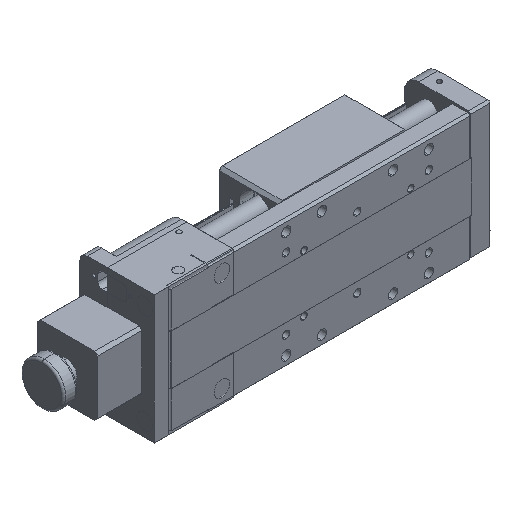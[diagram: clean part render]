
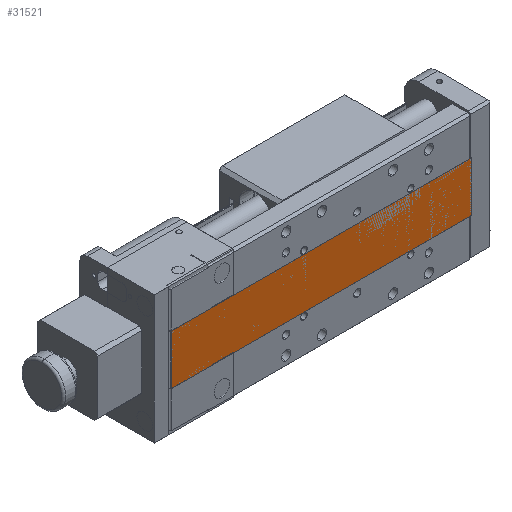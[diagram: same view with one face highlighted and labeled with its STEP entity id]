
A CAD part, isometric view. The second image highlights one B-rep face of the part: STEP entity #31521.
In plain terms, the highlighted planar face has unit normal (0, -1, 0).
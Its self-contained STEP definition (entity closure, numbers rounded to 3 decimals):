
#229 = ORIENTED_EDGE ( 'NONE', *, *, #33339, .T. ) ;
#234 = CARTESIAN_POINT ( 'NONE',  ( 207., -1., -62.5 ) ) ;
#1481 = VERTEX_POINT ( 'NONE', #14534 ) ;
#2547 = CARTESIAN_POINT ( 'NONE',  ( 207., -1., -62.5 ) ) ;
#5089 = LINE ( 'NONE', #15609, #22450 ) ;
#9201 = ORIENTED_EDGE ( 'NONE', *, *, #34910, .T. ) ;
#10143 = VERTEX_POINT ( 'NONE', #26408 ) ;
#14534 = CARTESIAN_POINT ( 'NONE',  ( 207., -1., -27.5 ) ) ;
#14621 = CARTESIAN_POINT ( 'NONE',  ( -3.5, -1., -62.5 ) ) ;
#14853 = VECTOR ( 'NONE', #28776, 1000. ) ;
#15194 = AXIS2_PLACEMENT_3D ( 'NONE', #70119, #53005, #18173 ) ;
#15609 = CARTESIAN_POINT ( 'NONE',  ( 207., -1., -27.5 ) ) ;
#16930 = EDGE_CURVE ( 'NONE', #46244, #63447, #71030, .T. ) ;
#17727 = ORIENTED_EDGE ( 'NONE', *, *, #30220, .T. ) ;
#18173 = DIRECTION ( 'NONE',  ( -1., 0., 0. ) ) ;
#22450 = VECTOR ( 'NONE', #56316, 1000. ) ;
#22651 = CARTESIAN_POINT ( 'NONE',  ( 207., -1., -62.5 ) ) ;
#26408 = CARTESIAN_POINT ( 'NONE',  ( -3.5, -1., -27.5 ) ) ;
#28776 = DIRECTION ( 'NONE',  ( 0., 0., 1. ) ) ;
#29075 = ORIENTED_EDGE ( 'NONE', *, *, #16930, .T. ) ;
#30220 = EDGE_CURVE ( 'NONE', #1481, #10143, #5089, .T. ) ;
#31521 = ADVANCED_FACE ( 'NONE', ( #33564 ), #35477, .T. ) ;
#33339 = EDGE_CURVE ( 'NONE', #10143, #46244, #34213, .T. ) ;
#33564 = FACE_OUTER_BOUND ( 'NONE', #57682, .T. ) ;
#34213 = LINE ( 'NONE', #14621, #47796 ) ;
#34910 = EDGE_CURVE ( 'NONE', #63447, #1481, #61321, .T. ) ;
#35477 = PLANE ( 'NONE',  #15194 ) ;
#41843 = VECTOR ( 'NONE', #64158, 1000. ) ;
#46244 = VERTEX_POINT ( 'NONE', #47606 ) ;
#47606 = CARTESIAN_POINT ( 'NONE',  ( -3.5, -1., -62.5 ) ) ;
#47796 = VECTOR ( 'NONE', #49457, 1000. ) ;
#49457 = DIRECTION ( 'NONE',  ( 0., 0., -1. ) ) ;
#53005 = DIRECTION ( 'NONE',  ( 0., -1., 0. ) ) ;
#56316 = DIRECTION ( 'NONE',  ( -1., 0., 0. ) ) ;
#57682 = EDGE_LOOP ( 'NONE', ( #9201, #17727, #229, #29075 ) ) ;
#61321 = LINE ( 'NONE', #22651, #14853 ) ;
#63447 = VERTEX_POINT ( 'NONE', #2547 ) ;
#64158 = DIRECTION ( 'NONE',  ( 1., 0., 0. ) ) ;
#70119 = CARTESIAN_POINT ( 'NONE',  ( -5., -1., 0. ) ) ;
#71030 = LINE ( 'NONE', #234, #41843 ) ;
